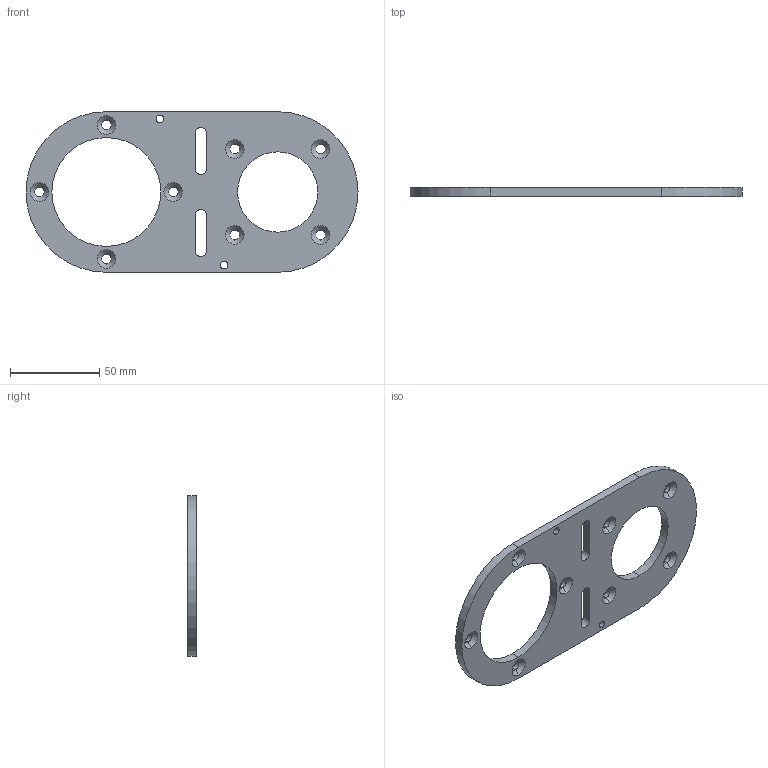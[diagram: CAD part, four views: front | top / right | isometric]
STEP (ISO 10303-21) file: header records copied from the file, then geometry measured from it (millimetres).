
FILE_DESCRIPTION (( 'STEP AP203' ), '1' );
FILE_NAME ('084.800.003.STEP', '2013-01-29T09:12:42', ( 'Alusic' ), ( 'Alusic' ), 'SwSTEP 2.0', 'SolidWorks 2011', '' );
FILE_SCHEMA (( 'CONFIG_CONTROL_DESIGN' ));
Length unit declared in the file: millimetre
Products named in the file (1): 084.800.003
Bounding box: 186 x 5 x 90 mm (x, y, z)
Volume: 49185.4 mm3; surface area: 25219.5 mm2
Topology: 1 solids, 1 shells, 56 faces, 146 edges, 92 vertices
Faces by surface type: cylinder 32, cone 16, plane 8
Entity records: 1875 total; most frequent: DIRECTION 340, CARTESIAN_POINT 295, ORIENTED_EDGE 292, EDGE_CURVE 146, AXIS2_PLACEMENT_3D 137, VERTEX_POINT 92, EDGE_LOOP 84, CIRCLE 80
